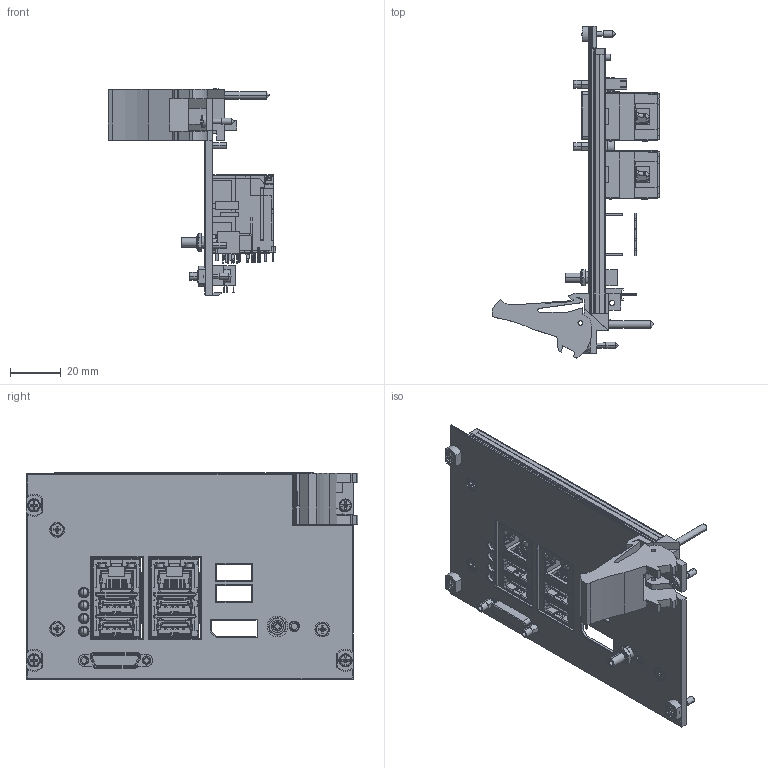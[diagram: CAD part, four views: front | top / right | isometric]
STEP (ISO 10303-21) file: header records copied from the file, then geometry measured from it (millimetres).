
FILE_DESCRIPTION((''),'2;1');
FILE_NAME('CU_PXIE-8880','2014-09-09T',('talbott'),(''),'PRO/ENGINEER BY PARAMETRIC TECHNOLOGY CORPORATION, 2014000','PRO/ENGINEER BY PARAMETRIC TECHNOLOGY CORPORATION, 2014000','');
FILE_SCHEMA(('CONFIG_CONTROL_DESIGN'));
Length unit declared in the file: inch
Products named in the file (1): CU_PXIE-8880
Bounding box: 65.82 x 130.5 x 81.22 mm (x, y, z)
Volume: 45192.1 mm3; surface area: 60651.6 mm2
Topology: 64 solids, 64 shells, 5471 faces, 15058 edges, 9738 vertices
Faces by surface type: plane 3951, cylinder 1182, bspline 152, cone 86, torus 84, sphere 16
Entity records: 178547 total; most frequent: CARTESIAN_POINT 38324, ORIENTED_EDGE 30060, DIRECTION 27760, EDGE_CURVE 15030, VECTOR 11784, LINE 11784, VERTEX_POINT 9795, AXIS2_PLACEMENT_3D 7988
